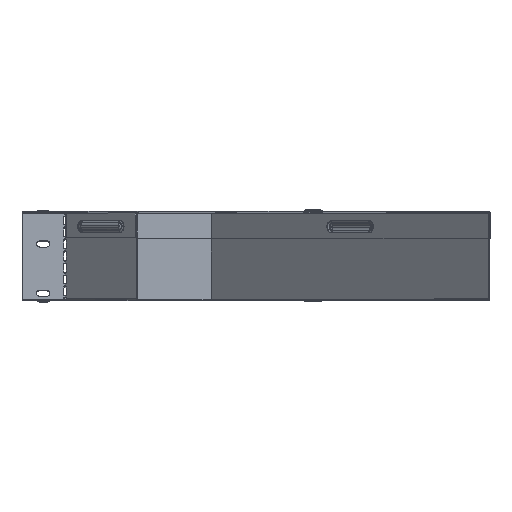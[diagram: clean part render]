
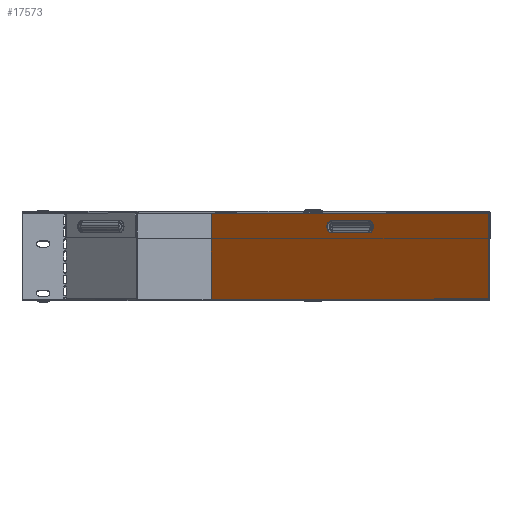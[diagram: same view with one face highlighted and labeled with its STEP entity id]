
A CAD part, top view. The second image highlights one B-rep face of the part: STEP entity #17573.
In plain terms, the highlighted planar face has unit normal (-0.707, 0, 0.707).
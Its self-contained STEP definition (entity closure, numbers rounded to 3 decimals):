
#107 = EDGE_CURVE ( 'NONE', #9947, #10270, #15064, .T. ) ;
#140 = DIRECTION ( 'NONE',  ( -0.707, 0., -0.707 ) ) ;
#1174 = ORIENTED_EDGE ( 'NONE', *, *, #17153, .F. ) ;
#1534 = CARTESIAN_POINT ( 'NONE',  ( 106.934, 76.183, -106.934 ) ) ;
#1923 = EDGE_LOOP ( 'NONE', ( #11282, #14870, #21368, #3586 ) ) ;
#2286 = FACE_BOUND ( 'NONE', #6170, .T. ) ;
#2400 = DIRECTION ( 'NONE',  ( -0.707, 0., 0.707 ) ) ;
#2658 = DIRECTION ( 'NONE',  ( -0.707, 0., -0.707 ) ) ;
#2688 = DIRECTION ( 'NONE',  ( -0.707, 0., 0.707 ) ) ;
#2692 = EDGE_CURVE ( 'NONE', #5818, #4685, #20043, .T. ) ;
#3442 = EDGE_CURVE ( 'NONE', #4685, #10540, #21040, .T. ) ;
#3586 = ORIENTED_EDGE ( 'NONE', *, *, #16286, .F. ) ;
#4247 = CARTESIAN_POINT ( 'NONE',  ( 128.148, 83.1, -85.721 ) ) ;
#4455 = EDGE_CURVE ( 'NONE', #9947, #12557, #13288, .T. ) ;
#4685 = VERTEX_POINT ( 'NONE', #12704 ) ;
#4907 = DIRECTION ( 'NONE',  ( 0., 1., 0. ) ) ;
#4977 = ORIENTED_EDGE ( 'NONE', *, *, #8466, .F. ) ;
#5458 = CARTESIAN_POINT ( 'NONE',  ( 264.123, 1., 50.255 ) ) ;
#5478 = CARTESIAN_POINT ( 'NONE',  ( -50.255, 1., -264.123 ) ) ;
#5687 = DIRECTION ( 'NONE',  ( -0.707, 0., 0.707 ) ) ;
#5737 = VERTEX_POINT ( 'NONE', #10730 ) ;
#5818 = VERTEX_POINT ( 'NONE', #9249 ) ;
#6170 = EDGE_LOOP ( 'NONE', ( #17179, #4977, #1174, #9485 ) ) ;
#6651 = AXIS2_PLACEMENT_3D ( 'NONE', #16145, #2400, #21262 ) ;
#6963 = LINE ( 'NONE', #13826, #12314 ) ;
#6995 = LINE ( 'NONE', #16112, #15233 ) ;
#7179 = VECTOR ( 'NONE', #140, 1000. ) ;
#7389 = DIRECTION ( 'NONE',  ( 0., 1., 0. ) ) ;
#7647 = CARTESIAN_POINT ( 'NONE',  ( 128.148, 90.017, -85.721 ) ) ;
#7936 = CARTESIAN_POINT ( 'NONE',  ( 128.148, 76.183, -85.721 ) ) ;
#8145 = FACE_OUTER_BOUND ( 'NONE', #1923, .T. ) ;
#8466 = EDGE_CURVE ( 'NONE', #21045, #5818, #6995, .T. ) ;
#9249 = CARTESIAN_POINT ( 'NONE',  ( 85.721, 90.017, -128.148 ) ) ;
#9286 = CARTESIAN_POINT ( 'NONE',  ( 85.721, 83.1, -128.148 ) ) ;
#9485 = ORIENTED_EDGE ( 'NONE', *, *, #3442, .F. ) ;
#9915 = CARTESIAN_POINT ( 'NONE',  ( 264.123, 0., 50.255 ) ) ;
#9947 = VERTEX_POINT ( 'NONE', #5458 ) ;
#10270 = VERTEX_POINT ( 'NONE', #12291 ) ;
#10540 = VERTEX_POINT ( 'NONE', #7936 ) ;
#10730 = CARTESIAN_POINT ( 'NONE',  ( -50.255, 98.2, -264.123 ) ) ;
#11282 = ORIENTED_EDGE ( 'NONE', *, *, #4455, .F. ) ;
#11331 = CIRCLE ( 'NONE', #21545, 6.917 ) ;
#11421 = EDGE_CURVE ( 'NONE', #5737, #10270, #6963, .T. ) ;
#11962 = AXIS2_PLACEMENT_3D ( 'NONE', #9286, #2688, #17864 ) ;
#12291 = CARTESIAN_POINT ( 'NONE',  ( 264.123, 98.2, 50.255 ) ) ;
#12314 = VECTOR ( 'NONE', #15541, 1000. ) ;
#12557 = VERTEX_POINT ( 'NONE', #5478 ) ;
#12704 = CARTESIAN_POINT ( 'NONE',  ( 85.721, 76.183, -128.148 ) ) ;
#12891 = VECTOR ( 'NONE', #20150, 1000. ) ;
#13288 = LINE ( 'NONE', #15286, #7179 ) ;
#13529 = CARTESIAN_POINT ( 'NONE',  ( -50.255, 0., -264.123 ) ) ;
#13826 = CARTESIAN_POINT ( 'NONE',  ( 264.434, 98.2, 50.566 ) ) ;
#14670 = VECTOR ( 'NONE', #15025, 1000. ) ;
#14870 = ORIENTED_EDGE ( 'NONE', *, *, #107, .T. ) ;
#15025 = DIRECTION ( 'NONE',  ( 0.707, 0., 0.707 ) ) ;
#15064 = LINE ( 'NONE', #9915, #12891 ) ;
#15233 = VECTOR ( 'NONE', #2658, 1000. ) ;
#15236 = VECTOR ( 'NONE', #4907, 1000. ) ;
#15286 = CARTESIAN_POINT ( 'NONE',  ( 264.434, 1., 50.566 ) ) ;
#15541 = DIRECTION ( 'NONE',  ( 0.707, 0., 0.707 ) ) ;
#16112 = CARTESIAN_POINT ( 'NONE',  ( 106.934, 90.017, -106.934 ) ) ;
#16145 = CARTESIAN_POINT ( 'NONE',  ( 106.934, 0., -106.934 ) ) ;
#16286 = EDGE_CURVE ( 'NONE', #12557, #5737, #18165, .T. ) ;
#17153 = EDGE_CURVE ( 'NONE', #10540, #21045, #11331, .T. ) ;
#17179 = ORIENTED_EDGE ( 'NONE', *, *, #2692, .F. ) ;
#17573 = ADVANCED_FACE ( 'NONE', ( #2286, #8145 ), #17706, .T. ) ;
#17706 = PLANE ( 'NONE',  #6651 ) ;
#17864 = DIRECTION ( 'NONE',  ( 0., 1., 0. ) ) ;
#18165 = LINE ( 'NONE', #13529, #15236 ) ;
#20043 = CIRCLE ( 'NONE', #11962, 6.917 ) ;
#20150 = DIRECTION ( 'NONE',  ( 0., 1., 0. ) ) ;
#21040 = LINE ( 'NONE', #1534, #14670 ) ;
#21045 = VERTEX_POINT ( 'NONE', #7647 ) ;
#21262 = DIRECTION ( 'NONE',  ( 0.707, 0., 0.707 ) ) ;
#21368 = ORIENTED_EDGE ( 'NONE', *, *, #11421, .F. ) ;
#21545 = AXIS2_PLACEMENT_3D ( 'NONE', #4247, #5687, #7389 ) ;
